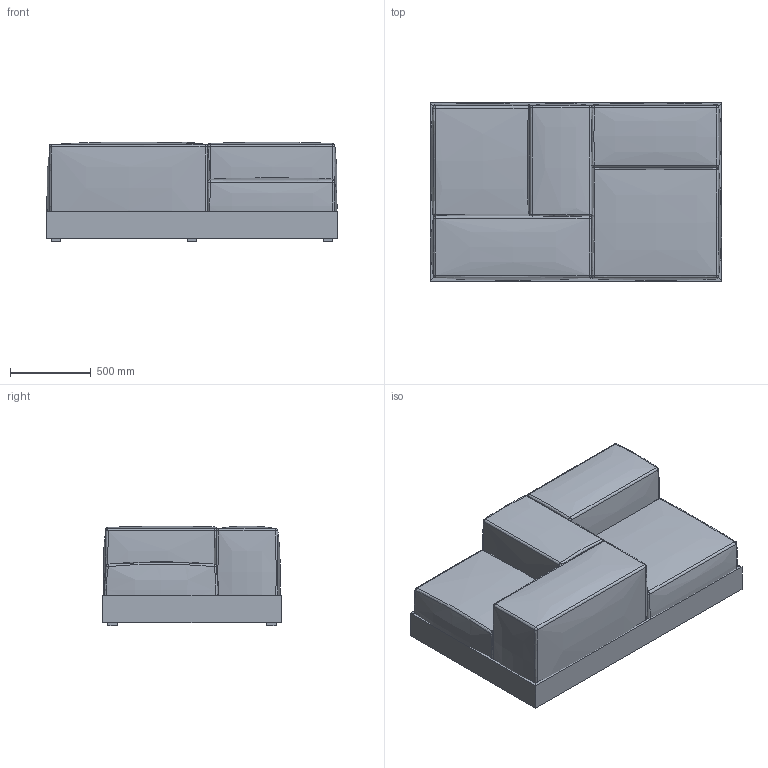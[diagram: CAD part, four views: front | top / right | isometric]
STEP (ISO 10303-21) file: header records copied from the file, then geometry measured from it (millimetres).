
FILE_DESCRIPTION(/* description */ (''),/* implementation_level */ '2;1');
FILE_NAME(/* name */ 'Polp1 180 brc vis a vis.step',/* time_stamp */ '2024-01-07T09:57:56+01:00',/* author */ (''),/* organization */ (''),/* preprocessor_version */ 'ST-DEVELOPER v20',/* originating_system */ 'Autodesk Translation Framework v12.14.0.127',/* authorisation */ '');
FILE_SCHEMA (('AUTOMOTIVE_DESIGN { 1 0 10303 214 3 1 1 }'));
Length unit declared in the file: millimetre
Products named in the file (1): Polp1 180 brc vis a vis
Bounding box: 1800 x 1100 x 615 mm (x, y, z)
Volume: 924952841.2 mm3; surface area: 15748986.4 mm2
Topology: 21 solids, 21 shells, 226 faces, 432 edges, 248 vertices
Faces by surface type: plane 101, bspline 85, sphere 40
Entity records: 18128 total; most frequent: CARTESIAN_POINT 13981, ORIENTED_EDGE 864, DIRECTION 716, EDGE_CURVE 432, AXIS2_PLACEMENT_3D 262, VERTEX_POINT 248, FACE_OUTER_BOUND 226, EDGE_LOOP 226
